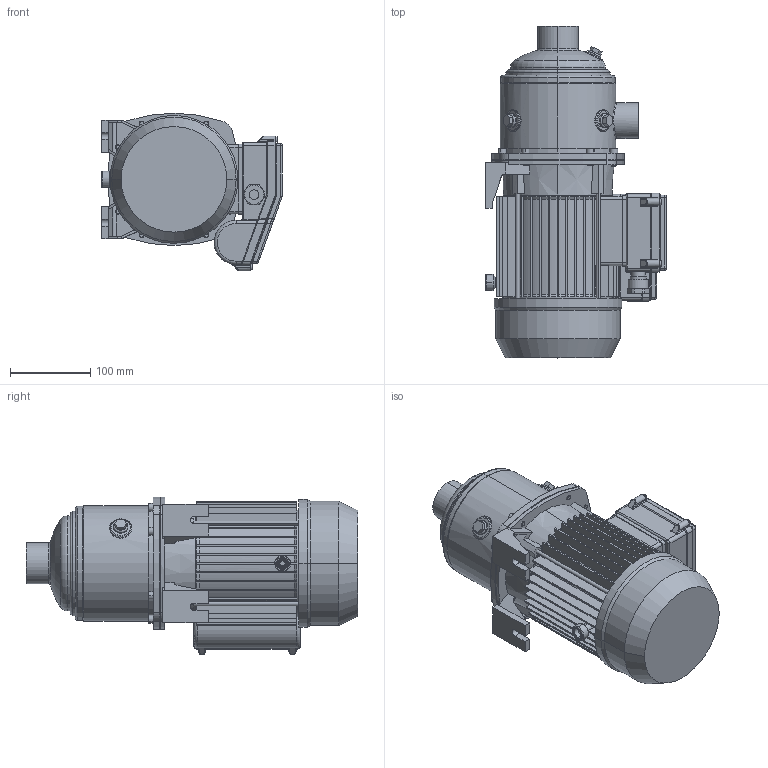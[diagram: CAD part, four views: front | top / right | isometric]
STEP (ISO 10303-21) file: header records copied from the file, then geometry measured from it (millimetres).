
FILE_DESCRIPTION((''),'2;1');
FILE_NAME('MATRIX_10-3T_1_3_M_ASM','2017-04-07T',('rosa'),('"Ebara Pumps Europe +39.444.706811"'),'PRO/ENGINEER BY PARAMETRIC TECHNOLOGY CORPORATION, 2012130','PRO/ENGINEER BY PARAMETRIC TECHNOLOGY CORPORATION, 2012130','');
FILE_SCHEMA(('AUTOMOTIVE_DESIGN { 1 0 10303 214 1 1 1 1 }'));
Length unit declared in the file: millimetre
Products named in the file (6): CORPO_POMPA_MATRIX_10-2_3; SUPPORTO_MATRIX_MEC_80; MEC_80_MONOFASE; 72229; COPRIMORSETTIERA_MEC80_90_M; MATRIX_10-3T_1_3_M_ASM
Assembly tree (5 placements, depth 2):
  MATRIX_10-3T_1_3_M_ASM
    CORPO_POMPA_MATRIX_10-2_3
    SUPPORTO_MATRIX_MEC_80
    MEC_80_MONOFASE
    72229
    COPRIMORSETTIERA_MEC80_90_M
Bounding box: 225 x 413.8 x 196.5 mm (x, y, z)
Volume: 5504950.3 mm3; surface area: 580330.8 mm2
Topology: 5 solids, 5 shells, 960 faces, 2294 edges, 1391 vertices
Faces by surface type: plane 427, cylinder 303, cone 108, torus 62, bspline 56, sphere 4
Entity records: 38911 total; most frequent: CARTESIAN_POINT 9123, DIRECTION 4712, ORIENTED_EDGE 4588, EDGE_CURVE 2294, PRESENTATION_STYLE_ASSIGNMENT 2248, STYLED_ITEM 2248, CURVE_STYLE 2244, AXIS2_PLACEMENT_3D 1815
